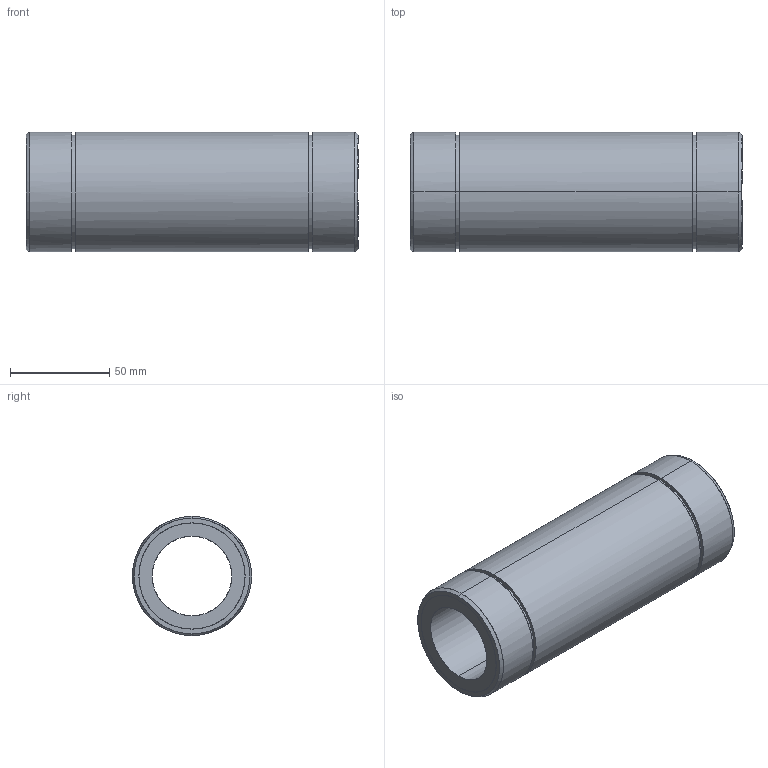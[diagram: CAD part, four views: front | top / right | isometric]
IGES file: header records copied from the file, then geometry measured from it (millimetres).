
Global section: file name: No Iges File Name specified; native system: AutoDesk Inventor R11.0; preprocessor: AutoDesk Inventor Iges Exporter R11.0; author: No Author specified; organization: No Organization specified; date: 20170921.115129; units: millimetre
Bounding box: 167 x 60 x 60 mm (x, y, z)
Surface area: 56410.3 mm2 (no closed solid volume)
Topology: 0 solids, 0 shells, 28 faces, 184 edges, 184 vertices
Faces by surface type: bspline 28
